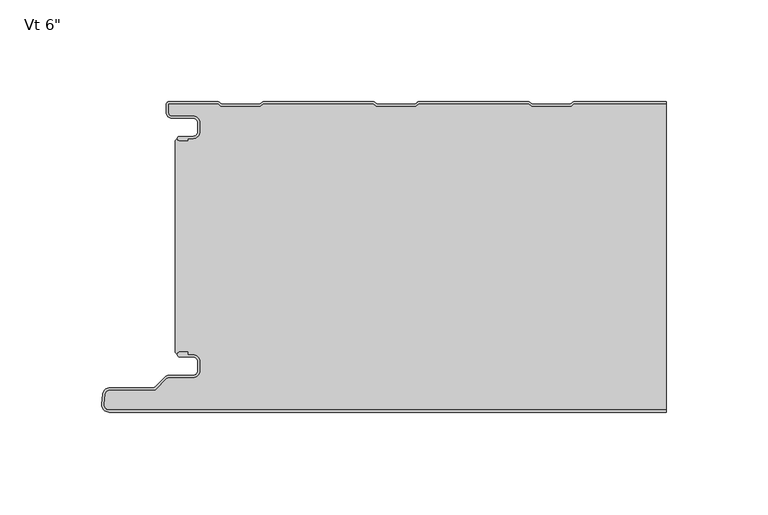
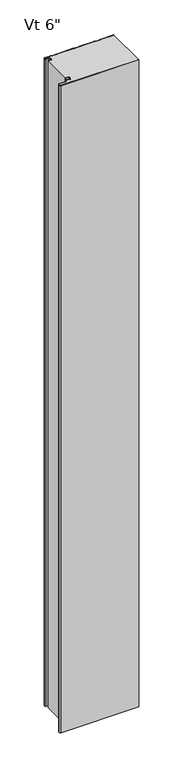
"""IFC4 building model written with IfcOpenShell, lengths in millimetres: plate geometry."""

from ifc_helpers import new_model, si_unit, point, frame, frame_2d, origin, origin_with_axes, place, context, project, spatial, polyline, circle_curve, trimmed, segment, composite_curve, outline, extrude, source, transform, mapped, element, save
from ifc_brep_helpers import plane_surface, cylinder_surface, revolved_surface, advanced_brep


def plate_dca6bb5d(model_context):
    return source(origin(), model_context, "Body", "SolidModel", [
        advanced_brep(
        [(-118.368691, -17.0015034, 2400.0), (-119.3686883, -18.0015065, 2400.0), (-118.368691, -19.0014978, 2400.0), (-114.3684874, -19.0014979, 2400.0), (-114.3684874, -18.0015034, 2400.0), (-111.6762776, -18.0015034, 2400.0), (-108.3762819, -14.7015077, 2400.0), (-108.3762819, -10.3015164, 2400.0), (-111.6762774, -7.001521, 2400.0), (-122.0962563, -7.001521, 2400.0), (-123.8662505, -5.2315268, 2400.0), (-123.8662505, -0.9999791, 2400.0), (-99.3659738, -0.9999791, 2400.0), (-97.9803312, -2.2002182, 2400.0), (-78.6051649, -2.2002182, 2400.0), (-77.219532, -0.9999874, 2400.0), (-23.1661166, -0.9999874, 2400.0), (-21.7804836, -2.2002182, 2400.0), (-2.4053173, -2.2002182, 2400.0), (-1.0196844, -0.9999874, 2400.0), (53.033731, -0.9999874, 2400.0), (54.419364, -2.2002182, 2400.0), (73.7945303, -2.2002182, 2400.0), (75.1801632, -0.9999874, 2400.0), (120.3999998, -0.9999874, 2400.0), (120.3999998, 1.26e-05, 2400.0), (75.3293144, 1.26e-05, 2400.0), (74.4126975, -0.3417759, 2400.0), (73.4216499, -1.2002182, 2400.0), (54.7922444, -1.2002182, 2400.0), (53.8011968, -0.3417759, 2400.0), (52.8845799, 1.26e-05, 2400.0), (-0.8705332, 1.26e-05, 2400.0), (-1.7871501, -0.3417759, 2400.0), (-2.7781977, -1.2002182, 2400.0), (-21.4076032, -1.2002182, 2400.0), (-22.3986508, -0.3417759, 2400.0), (-23.3152677, 1.26e-05, 2400.0), (-77.0703808, 1.26e-05, 2400.0), (-77.9869977, -0.3417759, 2400.0), (-78.9780453, -1.2002182, 2400.0), (-97.6074508, -1.2002182, 2400.0), (-98.5984984, -0.3417759, 2400.0), (-99.5152067, 1.26e-05, 2400.0), (-123.4662543, 2.09e-05, 2400.0), (-124.8662505, -1.3999752, 2400.0), (-124.8662505, -5.2315268, 2400.0), (-122.0962563, -8.001521, 2400.0), (-111.6762774, -8.001521, 2400.0), (-109.3762819, -10.3015164, 2400.0), (-109.3762819, -14.7015077, 2400.0), (-111.6762776, -17.0015034, 2400.0), (-118.368691, -17.0015034, 0.0), (-111.6762776, -17.0015034, 0.0), (-109.3762819, -14.7015077, 0.0), (-109.3762819, -10.3015164, 0.0), (-111.6762774, -8.001521, 0.0), (-122.0962563, -8.001521, 0.0), (-124.8662505, -5.2315268, 0.0), (-124.8662505, -1.3999752, 0.0), (-123.4662543, 2.09e-05, 0.0), (-99.5151153, 2.09e-05, 0.0), (-98.5984984, -0.3417759, 0.0), (-97.6074508, -1.2002182, 0.0), (-78.9780453, -1.2002182, 0.0), (-77.9869977, -0.3417759, 0.0), (-77.0703808, 1.26e-05, 0.0), (-23.3152677, 1.26e-05, 0.0), (-22.3986508, -0.3417759, 0.0), (-21.4076032, -1.2002182, 0.0), (-2.7781977, -1.2002182, 0.0), (-1.7871501, -0.3417759, 0.0), (-0.8705332, 1.26e-05, 0.0), (52.8845799, 1.26e-05, 0.0), (53.8011968, -0.3417759, 0.0), (54.7922444, -1.2002182, 0.0), (73.4216499, -1.2002182, 0.0), (74.4126975, -0.3417759, 0.0), (75.3293144, 1.26e-05, 0.0), (120.3999998, 1.26e-05, 0.0), (120.3999998, -0.9999874, 0.0), (75.1801632, -0.9999874, 0.0), (73.7945303, -2.2002182, 0.0), (54.419364, -2.2002182, 0.0), (53.033731, -0.9999874, 0.0), (-1.0196844, -0.9999874, 0.0), (-2.4053173, -2.2002182, 0.0), (-21.7804836, -2.2002182, 0.0), (-23.1661166, -0.9999874, 0.0), (-77.219532, -0.9999874, 0.0), (-78.6051649, -2.2002182, 0.0), (-97.9803312, -2.2002182, 0.0), (-99.3659738, -0.9999791, 0.0), (-123.8662505, -0.9999791, 0.0), (-123.8662505, -5.2315268, 0.0), (-122.0962563, -7.001521, 0.0), (-111.6762774, -7.001521, 0.0), (-108.3762819, -10.3015164, 0.0), (-108.3762819, -14.7015077, 0.0), (-111.6762776, -18.0015034, 0.0), (-114.3684874, -18.0015034, 0.0), (-114.3684874, -19.0014979, 0.0), (-118.368691, -19.0014979, 0.0), (-119.3686882, -18.0015065, 0.0)],
        [
            (0, 1, circle_curve(frame((-118.368691, -18.0015006, 2400.0), z_axis=(0.0, 0.0, 1.0), x_axis=(1.0, 0.0, 0.0)), 0.9999973)),
            (1, 2, circle_curve(frame((-118.368691, -18.0015006, 2400.0), z_axis=(0.0, 0.0, 1.0), x_axis=(1.0, 0.0, 0.0)), 0.9999972)),
            (2, 3),
            (3, 4),
            (4, 5),
            (5, 6, circle_curve(frame((-111.6762776, -14.7015077, 2400.0), z_axis=(0.0, 0.0, 1.0), x_axis=(1.0, 0.0, 0.0)), 3.2999957)),
            (6, 7),
            (7, 8, circle_curve(frame((-111.6762774, -10.3015164, 2400.0), z_axis=(0.0, 0.0, 1.0), x_axis=(1.0, 0.0, 0.0)), 3.2999955)),
            (8, 9),
            (9, 10, circle_curve(frame((-122.0962563, -5.2315268, 2400.0), z_axis=(0.0, 0.0, -1.0), x_axis=(1.0, 0.0, 0.0)), 1.7699942)),
            (10, 11),
            (11, 12),
            (12, 13),
            (13, 14),
            (14, 15),
            (15, 16),
            (16, 17),
            (17, 18),
            (18, 19),
            (19, 20),
            (20, 21),
            (21, 22),
            (22, 23),
            (23, 24),
            (24, 25),
            (25, 26),
            (26, 27, circle_curve(frame((75.3293144, -1.3999846, 2400.0), z_axis=(0.0, 0.0, 1.0), x_axis=(1.0, 0.0, 0.0)), 1.3999972)),
            (27, 28),
            (28, 29),
            (29, 30),
            (30, 31, circle_curve(frame((52.8845799, -1.3999846, 2400.0), z_axis=(0.0, 0.0, 1.0), x_axis=(1.0, 0.0, 0.0)), 1.3999972)),
            (31, 32),
            (32, 33, circle_curve(frame((-0.8705332, -1.3999846, 2400.0), z_axis=(0.0, 0.0, 1.0), x_axis=(1.0, 0.0, 0.0)), 1.3999972)),
            (33, 34),
            (34, 35),
            (35, 36),
            (36, 37, circle_curve(frame((-23.3152677, -1.3999846, 2400.0), z_axis=(0.0, 0.0, 1.0), x_axis=(1.0, 0.0, 0.0)), 1.3999972)),
            (37, 38),
            (38, 39, circle_curve(frame((-77.0703808, -1.3999846, 2400.0), z_axis=(0.0, 0.0, 1.0), x_axis=(1.0, 0.0, 0.0)), 1.3999972)),
            (39, 40),
            (40, 41),
            (41, 42),
            (42, 43, circle_curve(frame((-99.5151153, -1.3999846, 2400.0), z_axis=(0.0, 0.0, 1.0), x_axis=(1.0, 0.0, 0.0)), 1.3999972)),
            (43, 44),
            (44, 45, circle_curve(frame((-123.4662543, -1.3999752, 2400.0), z_axis=(0.0, 0.0, 1.0), x_axis=(1.0, 0.0, 0.0)), 1.3999962)),
            (45, 46),
            (46, 47, circle_curve(frame((-122.0962563, -5.2315268, 2400.0), z_axis=(0.0, 0.0, 1.0), x_axis=(1.0, 0.0, 0.0)), 2.7699942)),
            (47, 48),
            (48, 49, circle_curve(frame((-111.6762774, -10.3015164, 2400.0), z_axis=(0.0, 0.0, -1.0), x_axis=(1.0, 0.0, 0.0)), 2.2999955)),
            (49, 50),
            (50, 51, circle_curve(frame((-111.6762776, -14.7015077, 2400.0), z_axis=(0.0, 0.0, -1.0), x_axis=(1.0, 0.0, 0.0)), 2.2999957)),
            (51, 0),
            (52, 53),
            (53, 54, circle_curve(frame((-111.6762776, -14.7015077, 0.0), z_axis=(0.0, 0.0, 1.0), x_axis=(1.0, 0.0, 0.0)), 2.2999957)),
            (54, 55),
            (55, 56, circle_curve(frame((-111.6762774, -10.3015164, 0.0), z_axis=(0.0, 0.0, 1.0), x_axis=(1.0, 0.0, 0.0)), 2.2999955)),
            (56, 57),
            (57, 58, circle_curve(frame((-122.0962563, -5.2315268, 0.0), z_axis=(0.0, 0.0, -1.0), x_axis=(1.0, 0.0, 0.0)), 2.7699942)),
            (58, 59),
            (59, 60, circle_curve(frame((-123.4662543, -1.3999752, 0.0), z_axis=(0.0, 0.0, -1.0), x_axis=(1.0, 0.0, 0.0)), 1.3999962)),
            (60, 61),
            (61, 62, circle_curve(frame((-99.5151153, -1.3999846, 0.0), z_axis=(0.0, 0.0, -1.0), x_axis=(1.0, 0.0, 0.0)), 1.3999972)),
            (62, 63),
            (63, 64),
            (64, 65),
            (65, 66, circle_curve(frame((-77.0703808, -1.3999846, 0.0), z_axis=(0.0, 0.0, -1.0), x_axis=(1.0, 0.0, 0.0)), 1.3999972)),
            (66, 67),
            (67, 68, circle_curve(frame((-23.3152677, -1.3999846, 0.0), z_axis=(0.0, 0.0, -1.0), x_axis=(1.0, 0.0, 0.0)), 1.3999972)),
            (68, 69),
            (69, 70),
            (70, 71),
            (71, 72, circle_curve(frame((-0.8705332, -1.3999846, 0.0), z_axis=(0.0, 0.0, -1.0), x_axis=(1.0, 0.0, 0.0)), 1.3999972)),
            (72, 73),
            (73, 74, circle_curve(frame((52.8845799, -1.3999846, 0.0), z_axis=(0.0, 0.0, -1.0), x_axis=(1.0, 0.0, 0.0)), 1.3999972)),
            (74, 75),
            (75, 76),
            (76, 77),
            (77, 78, circle_curve(frame((75.3293144, -1.3999846, 0.0), z_axis=(0.0, 0.0, -1.0), x_axis=(1.0, 0.0, 0.0)), 1.3999972)),
            (78, 79),
            (79, 80),
            (80, 81),
            (81, 82),
            (82, 83),
            (83, 84),
            (84, 85),
            (85, 86),
            (86, 87),
            (87, 88),
            (88, 89),
            (89, 90),
            (90, 91),
            (91, 92),
            (92, 93),
            (93, 94),
            (94, 95, circle_curve(frame((-122.0962563, -5.2315268, 0.0), z_axis=(0.0, 0.0, 1.0), x_axis=(1.0, 0.0, 0.0)), 1.7699942)),
            (95, 96),
            (96, 97, circle_curve(frame((-111.6762774, -10.3015164, 0.0), z_axis=(0.0, 0.0, -1.0), x_axis=(1.0, 0.0, 0.0)), 3.2999955)),
            (97, 98),
            (98, 99, circle_curve(frame((-111.6762776, -14.7015077, 0.0), z_axis=(0.0, 0.0, -1.0), x_axis=(1.0, 0.0, 0.0)), 3.2999957)),
            (99, 100),
            (100, 101),
            (101, 102),
            (102, 103, circle_curve(frame((-118.368691, -18.0015006, 0.0), z_axis=(0.0, 0.0, -1.0), x_axis=(1.0, 0.0, 0.0)), 0.9999972)),
            (103, 52, circle_curve(frame((-118.368691, -18.0015006, 0.0), z_axis=(0.0, 0.0, -1.0), x_axis=(1.0, 0.0, 0.0)), 0.9999973)),
            (24, 80),
            (79, 25),
            (51, 53),
            (52, 0),
            (50, 54),
            (49, 55),
            (48, 56),
            (47, 57),
            (46, 58),
            (45, 59),
            (44, 60),
            (43, 61),
            (78, 26),
            (42, 62),
            (41, 63),
            (40, 64),
            (38, 66),
            (65, 39),
            (36, 68),
            (67, 37),
            (77, 27),
            (76, 28),
            (31, 73),
            (72, 32),
            (71, 33),
            (34, 70),
            (69, 35),
            (30, 74),
            (29, 75),
            (2, 102),
            (101, 3),
            (1, 103),
            (23, 81),
            (22, 82),
            (21, 83),
            (20, 84),
            (19, 85),
            (18, 86),
            (17, 87),
            (16, 88),
            (15, 89),
            (14, 90),
            (13, 91),
            (12, 92),
            (11, 93),
            (10, 94),
            (9, 95),
            (8, 96),
            (7, 97),
            (6, 98),
            (5, 99),
            (4, 100),
        ],
        [
            plane_surface(frame((184.4000002, 1.26e-05, 2400.0), z_axis=(0.0, 0.0, 1.0), x_axis=(0.0, 1.0, 0.0))),
            plane_surface(frame((184.4000002, 1.26e-05, 0.0), z_axis=(0.0, 0.0, -1.0), x_axis=(0.0, 1.0, 0.0))),
            plane_surface(frame((120.3999998, -162.3999874, 2400.0), z_axis=(1.0, 0.0, 0.0), x_axis=(0.0, 0.0, -1.0))),
            plane_surface(frame((-118.368691, -17.0015034, 2400.0), z_axis=(0.0, 1.0, 0.0), x_axis=(0.0, 0.0, -1.0))),
            revolved_surface(polyline([(-109.37628190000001, -14.7015077, 0.0), (-109.37628190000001, -14.7015077, 2400.0)]), (-111.6762776, -14.7015077, 2400.0), (0.0, 0.0, -1.0)),
            plane_surface(frame((-109.3762819, -14.7015077, 2400.0), z_axis=(-1.0, 0.0, 0.0), x_axis=(0.0, 0.0, -1.0))),
            revolved_surface(polyline([(-109.37628190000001, -10.3015164, 0.0), (-109.37628190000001, -10.3015164, 2400.0)]), (-111.6762774, -10.3015164, 2400.0), (0.0, 0.0, -1.0)),
            plane_surface(frame((-111.6762774, -8.001521, 2400.0), z_axis=(0.0, -1.0, 0.0), x_axis=(0.0, 0.0, -1.0))),
            cylinder_surface(frame((-122.0962563, -5.2315268, 2400.0), z_axis=(0.0, 0.0, 1.0), x_axis=(1.0, 0.0, 0.0)), 2.7699942),
            plane_surface(frame((-124.8662505, -5.2315268, 2400.0), z_axis=(-1.0, 0.0, 0.0), x_axis=(0.0, 0.0, -1.0))),
            cylinder_surface(frame((-123.4662543, -1.3999752, 2400.0), z_axis=(0.0, 0.0, 1.0), x_axis=(1.0, 0.0, 0.0)), 1.3999962),
            plane_surface(frame((-123.4662543, 2.09e-05, 2400.0), z_axis=(0.0, 1.0, 0.0), x_axis=(0.0, 0.0, -1.0))),
            plane_surface(frame((75.3293144, 1.26e-05, 2400.0), z_axis=(0.0, 1.0, 0.0), x_axis=(0.0, 0.0, -1.0))),
            cylinder_surface(frame((-99.5151153, -1.3999846, 2400.0), z_axis=(0.0, 0.0, 1.0), x_axis=(1.0, 0.0, 0.0)), 1.3999972),
            plane_surface(frame((-98.5984984, -0.3417759, 2400.0), z_axis=(0.6547276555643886, 0.755864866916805, 0.0), x_axis=(0.0, 0.0, -1.0))),
            plane_surface(frame((-88.2927481, -1.2002182, 2400.0), z_axis=(0.0, 1.0, 0.0), x_axis=(0.0, 0.0, -1.0))),
            cylinder_surface(frame((-77.0703808, -1.3999846, 2400.0), z_axis=(0.0, 0.0, 1.0), x_axis=(1.0, 0.0, 0.0)), 1.3999972),
            plane_surface(frame((-78.9780453, -1.2002182, 2400.0), z_axis=(-0.6547276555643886, 0.755864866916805, 0.0), x_axis=(0.0, 0.0, -1.0))),
            cylinder_surface(frame((-23.3152677, -1.3999846, 2400.0), z_axis=(0.0, 0.0, 1.0), x_axis=(1.0, 0.0, 0.0)), 1.3999972),
            cylinder_surface(frame((75.3293144, -1.3999846, 2400.0), z_axis=(0.0, 0.0, 1.0), x_axis=(1.0, 0.0, 0.0)), 1.3999972),
            plane_surface(frame((73.4216499, -1.2002182, 2400.0), z_axis=(-0.6547276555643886, 0.755864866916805, 0.0), x_axis=(0.0, 0.0, -1.0))),
            plane_surface(frame((-0.8705332, 1.26e-05, 2400.0), z_axis=(0.0, 1.0, 0.0), x_axis=(0.0, 0.0, -1.0))),
            cylinder_surface(frame((-0.8705332, -1.3999846, 2400.0), z_axis=(0.0, 0.0, 1.0), x_axis=(1.0, 0.0, 0.0)), 1.3999972),
            plane_surface(frame((-12.0929005, -1.2002182, 2400.0), z_axis=(0.0, 1.0, 0.0), x_axis=(0.0, 0.0, -1.0))),
            plane_surface(frame((-22.3986508, -0.3417759, 2400.0), z_axis=(0.6547276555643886, 0.755864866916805, 0.0), x_axis=(0.0, 0.0, -1.0))),
            plane_surface(frame((-2.7781977, -1.2002182, 2400.0), z_axis=(-0.6547276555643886, 0.755864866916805, 0.0), x_axis=(0.0, 0.0, -1.0))),
            plane_surface(frame((-77.0703808, 1.26e-05, 2400.0), z_axis=(0.0, 1.0, 0.0), x_axis=(0.0, 0.0, -1.0))),
            cylinder_surface(frame((52.8845799, -1.3999846, 2400.0), z_axis=(0.0, 0.0, 1.0), x_axis=(1.0, 0.0, 0.0)), 1.3999972),
            plane_surface(frame((53.8011968, -0.3417759, 2400.0), z_axis=(0.6547276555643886, 0.755864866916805, 0.0), x_axis=(0.0, 0.0, -1.0))),
            plane_surface(frame((64.1069471, -1.2002182, 2400.0), z_axis=(0.0, 1.0, 0.0), x_axis=(0.0, 0.0, -1.0))),
            plane_surface(frame((-114.3684874, -19.0014979, 2400.0), z_axis=(0.0, -1.0, 0.0), x_axis=(0.0, 0.0, -1.0))),
            cylinder_surface(frame((-118.368691, -18.0015006, 2400.0), z_axis=(0.0, 0.0, 1.0), x_axis=(1.0, 0.0, 0.0)), 0.9999972),
            cylinder_surface(frame((-118.368691, -18.0015006, 2400.0), z_axis=(0.0, 0.0, 1.0), x_axis=(1.0, 0.0, 0.0)), 0.9999973),
            plane_surface(frame((129.2335786, -0.9999874, 2400.0), z_axis=(0.0, -1.0, 0.0), x_axis=(0.0, 0.0, -1.0))),
            plane_surface(frame((75.1801632, -0.9999874, 2400.0), z_axis=(0.6547276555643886, -0.755864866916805, 0.0), x_axis=(0.0, 0.0, -1.0))),
            plane_surface(frame((73.7945303, -2.2002182, 2400.0), z_axis=(0.0, -1.0, 0.0), x_axis=(0.0, 0.0, -1.0))),
            plane_surface(frame((54.419364, -2.2002182, 2400.0), z_axis=(-0.6547276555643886, -0.755864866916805, 0.0), x_axis=(0.0, 0.0, -1.0))),
            plane_surface(frame((53.033731, -0.9999874, 2400.0), z_axis=(0.0, -1.0, 0.0), x_axis=(0.0, 0.0, -1.0))),
            plane_surface(frame((-1.0196844, -0.9999874, 2400.0), z_axis=(0.6547276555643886, -0.755864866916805, 0.0), x_axis=(0.0, 0.0, -1.0))),
            plane_surface(frame((-2.4053173, -2.2002182, 2400.0), z_axis=(0.0, -1.0, 0.0), x_axis=(0.0, 0.0, -1.0))),
            plane_surface(frame((-21.7804836, -2.2002182, 2400.0), z_axis=(-0.6547276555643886, -0.755864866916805, 0.0), x_axis=(0.0, 0.0, -1.0))),
            plane_surface(frame((-23.1661166, -0.9999874, 2400.0), z_axis=(0.0, -1.0, 0.0), x_axis=(0.0, 0.0, -1.0))),
            plane_surface(frame((-77.219532, -0.9999874, 2400.0), z_axis=(0.6547276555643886, -0.755864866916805, 0.0), x_axis=(0.0, 0.0, -1.0))),
            plane_surface(frame((-78.6051649, -2.2002182, 2400.0), z_axis=(0.0, -1.0, 0.0), x_axis=(0.0, 0.0, -1.0))),
            plane_surface(frame((-97.9803312, -2.2002182, 2400.0), z_axis=(-0.6547276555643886, -0.755864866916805, 0.0), x_axis=(0.0, 0.0, -1.0))),
            plane_surface(frame((-99.3659738, -0.9999791, 2400.0), z_axis=(0.0, -1.0, 0.0), x_axis=(0.0, 0.0, -1.0))),
            plane_surface(frame((-123.8662505, -0.9999791, 2400.0), z_axis=(1.0, 0.0, 0.0), x_axis=(0.0, 0.0, -1.0))),
            revolved_surface(polyline([(-120.3262621, -5.2315268, 0.0), (-120.3262621, -5.2315268, 2400.0)]), (-122.0962563, -5.2315268, 2400.0), (0.0, 0.0, -1.0)),
            plane_surface(frame((-122.0962563, -7.001521, 2400.0), z_axis=(0.0, 1.0, 0.0), x_axis=(0.0, 0.0, -1.0))),
            cylinder_surface(frame((-111.6762774, -10.3015164, 2400.0), z_axis=(0.0, 0.0, 1.0), x_axis=(1.0, 0.0, 0.0)), 3.2999955),
            plane_surface(frame((-108.3762819, -10.3015164, 2400.0), z_axis=(1.0, 0.0, 0.0), x_axis=(0.0, 0.0, -1.0))),
            cylinder_surface(frame((-111.6762776, -14.7015077, 2400.0), z_axis=(0.0, 0.0, 1.0), x_axis=(1.0, 0.0, 0.0)), 3.2999957),
            plane_surface(frame((-111.6762776, -18.0015034, 2400.0), z_axis=(0.0, -1.0, 0.0), x_axis=(0.0, 0.0, -1.0))),
            plane_surface(frame((-114.3684874, -18.0015034, 2400.0), z_axis=(1.0, 0.0, 0.0), x_axis=(0.0, 0.0, -1.0))),
        ],
        [
            (0, [[1, 2, 3, 4, 5, 6, 7, 8, 9, 10, 11, 12, 13, 14, 15, 16, 17, 18, 19, 20, 21, 22, 23, 24, 25, 26, 27, 28, 29, 30, 31, 32, 33, 34, 35, 36, 37, 38, 39, 40, 41, 42, 43, 44, 45, 46, 47, 48, 49, 50, 51, 52]]),
            (1, [[53, 54, 55, 56, 57, 58, 59, 60, 61, 62, 63, 64, 65, 66, 67, 68, 69, 70, 71, 72, 73, 74, 75, 76, 77, 78, 79, 80, 81, 82, 83, 84, 85, 86, 87, 88, 89, 90, 91, 92, 93, 94, 95, 96, 97, 98, 99, 100, 101, 102, 103, 104]]),
            (2, [[105, -80, 106, -25]]),
            (3, [[107, -53, 108, -52]]),
            (4, [[109, -54, -107, -51]]),
            (5, [[110, -55, -109, -50]]),
            (6, [[111, -56, -110, -49]]),
            (7, [[112, -57, -111, -48]]),
            (8, [[113, -58, -112, -47]]),
            (9, [[114, -59, -113, -46]]),
            (10, [[115, -60, -114, -45]]),
            (11, [[116, -61, -115, -44]]),
            (12, [[-26, -106, -79, 117]]),
            (13, [[118, -62, -116, -43]]),
            (14, [[119, -63, -118, -42]]),
            (15, [[120, -64, -119, -41]]),
            (16, [[121, -66, 122, -39]]),
            (17, [[-122, -65, -120, -40]]),
            (18, [[123, -68, 124, -37]]),
            (19, [[-117, -78, 125, -27]]),
            (20, [[-125, -77, 126, -28]]),
            (21, [[127, -73, 128, -32]]),
            (22, [[-128, -72, 129, -33]]),
            (23, [[130, -70, 131, -35]]),
            (24, [[-131, -69, -123, -36]]),
            (25, [[-129, -71, -130, -34]]),
            (26, [[-124, -67, -121, -38]]),
            (27, [[132, -74, -127, -31]]),
            (28, [[133, -75, -132, -30]]),
            (29, [[-126, -76, -133, -29]]),
            (30, [[134, -102, 135, -3]]),
            (31, [[136, -103, -134, -2]]),
            (32, [[-108, -104, -136, -1]]),
            (33, [[-81, -105, -24, 137]]),
            (34, [[138, -82, -137, -23]]),
            (35, [[139, -83, -138, -22]]),
            (36, [[140, -84, -139, -21]]),
            (37, [[141, -85, -140, -20]]),
            (38, [[142, -86, -141, -19]]),
            (39, [[143, -87, -142, -18]]),
            (40, [[144, -88, -143, -17]]),
            (41, [[145, -89, -144, -16]]),
            (42, [[146, -90, -145, -15]]),
            (43, [[147, -91, -146, -14]]),
            (44, [[148, -92, -147, -13]]),
            (45, [[149, -93, -148, -12]]),
            (46, [[150, -94, -149, -11]]),
            (47, [[151, -95, -150, -10]]),
            (48, [[152, -96, -151, -9]]),
            (49, [[153, -97, -152, -8]]),
            (50, [[154, -98, -153, -7]]),
            (51, [[155, -99, -154, -6]]),
            (52, [[156, -100, -155, -5]]),
            (53, [[-135, -101, -156, -4]]),
        ],
    ),
        extrude(outline(composite_curve([segment(polyline([(-156.4087505, -148.5183478), (-155.9690674, -143.4944311)]), True, "CONTINUOUS"), segment(trimmed(circle_curve(frame_2d((-152.3198391, -144.1052322)), 3.6999926), [point((-155.9690674, -143.4944311))], [point((-152.3198391, -140.4052396))], False, "CARTESIAN"), True, "CONTINUOUS"), segment(polyline([(-152.3198391, -140.4052396), (-131.1773995, -140.4052396)]), True, "CONTINUOUS"), segment(trimmed(circle_curve(frame_2d((-131.1773995, -139.1052422)), 1.2999974), [point((-131.1773995, -140.4052396))], [point((-130.2581626, -140.0244792))], True, "CARTESIAN"), True, "CONTINUOUS"), segment(polyline([(-130.2581626, -140.0244792), (-125.4297451, -135.1960618)]), True, "CONTINUOUS"), segment(trimmed(circle_curve(frame_2d((-123.5205606, -137.1052462)), 2.6999946), [point((-125.4297451, -135.1960618))], [point((-123.5205606, -134.4052516))], False, "CARTESIAN"), True, "CONTINUOUS"), segment(polyline([(-123.5205606, -134.4052516), (-111.7096715, -134.4052516)]), True, "CONTINUOUS"), segment(trimmed(circle_curve(frame_2d((-111.7096715, -132.0552563)), 2.3499953), [point((-111.7096715, -134.4052516))], [point((-109.3596762, -132.0552563))], True, "CARTESIAN"), True, "CONTINUOUS"), segment(polyline([(-109.3596762, -132.0552563), (-109.3596762, -127.6552651)]), True, "CONTINUOUS"), segment(trimmed(circle_curve(frame_2d((-111.7096715, -127.6552651)), 2.3499953), [point((-109.3596762, -127.6552651))], [point((-111.7096715, -125.3052698))], True, "CARTESIAN"), True, "CONTINUOUS"), segment(polyline([(-111.7096715, -125.3052698), (-118.2289777, -125.3052698)]), True, "CONTINUOUS"), segment(trimmed(circle_curve(frame_2d((-118.1686906, -124.1067876)), 1.1999976), [point((-118.2289777, -125.3052698))], [point((-119.3683, -124.0762657))], False, "CARTESIAN"), True, "CONTINUOUS"), segment(trimmed(circle_curve(frame_2d((-118.1686906, -124.1067876)), 1.1999976), [point((-119.3683, -124.0762657))], [point((-118.167176, -122.906791))], False, "CARTESIAN"), True, "CONTINUOUS"), segment(polyline([(-118.167176, -122.906791), (-114.4087826, -122.906791), (-114.4087826, -124.3052698), (-111.7096715, -124.3052698)]), True, "CONTINUOUS"), segment(trimmed(circle_curve(frame_2d((-111.7096715, -127.6552651)), 3.3499953), [point((-111.7096715, -124.3052698))], [point((-108.3596762, -127.6552651))], False, "CARTESIAN"), True, "CONTINUOUS"), segment(polyline([(-108.3596762, -127.6552651), (-108.3596762, -132.0552563)]), True, "CONTINUOUS"), segment(trimmed(circle_curve(frame_2d((-111.7096715, -132.0552563)), 3.3499953), [point((-108.3596762, -132.0552563))], [point((-111.7096715, -135.4052516))], False, "CARTESIAN"), True, "CONTINUOUS"), segment(polyline([(-111.7096715, -135.4052516), (-123.5205606, -135.4052516)]), True, "CONTINUOUS"), segment(trimmed(circle_curve(frame_2d((-123.5205606, -137.1052462)), 1.6999946), [point((-123.5205606, -135.4052516))], [point((-124.7226383, -135.9031685))], True, "CARTESIAN"), True, "CONTINUOUS"), segment(polyline([(-124.7226383, -135.9031685), (-130.2247094, -141.4052396), (-152.3198391, -141.4052396)]), True, "CONTINUOUS"), segment(trimmed(circle_curve(frame_2d((-152.3198391, -144.1052322)), 2.6999926), [point((-152.3198391, -141.4052396))], [point((-154.9765707, -143.6238416))], True, "CARTESIAN"), True, "CONTINUOUS"), segment(polyline([(-154.9765707, -143.6238416), (-155.4125697, -148.6056625)]), True, "CONTINUOUS"), segment(trimmed(circle_curve(frame_2d((-152.8521175, -148.8297482)), 2.5702393), [point((-155.4125697, -148.6056625))], [point((-152.9094458, -151.399348))], True, "CARTESIAN"), True, "CONTINUOUS"), segment(polyline([(-152.9094458, -151.399348), (120.3999998, -151.399348), (120.3999998, -152.3996828), (-152.8521038, -152.3998575)]), True, "CONTINUOUS"), segment(trimmed(circle_curve(frame_2d((-152.8521061, -148.8296182)), 3.5702393), [point((-152.8521038, -152.3998575))], [point((-156.4087505, -148.5183478))], False, "CARTESIAN"), True, "CONTINUOUS")], self_intersect=False)), origin_with_axes(), (0.0, 0.0, 1.0), 2400.0),
        advanced_brep(
        [(-119.3683, -124.0708624, 2400.0), (-118.167176, -122.9013877, 2400.0), (-114.4087826, -122.9013877, 2400.0), (-114.4087826, -124.2998666, 2400.0), (-111.7096715, -124.2998666, 2400.0), (-108.3596762, -127.6498619, 2400.0), (-108.3596762, -132.0498531, 2400.0), (-111.7096715, -135.3998484, 2400.0), (-123.5205606, -135.3998484, 2400.0), (-124.7226383, -135.8977653, 2400.0), (-130.2247094, -141.3998364, 2400.0), (-152.3198391, -141.3998364, 2400.0), (-154.9765707, -143.6184384, 2400.0), (-155.4125697, -148.6002592, 2400.0), (-152.8521175, -151.3945842, 2400.0), (120.3999998, -151.3999874, 2400.0), (120.3999998, -0.9999874, 2400.0), (75.1801633, -0.9999874, 2400.0), (73.7945303, -2.2002182, 2400.0), (54.419364, -2.2002182, 2400.0), (53.0337311, -0.9999874, 2400.0), (-1.0196843, -0.9999874, 2400.0), (-2.4053173, -2.2002182, 2400.0), (-21.7804836, -2.2002182, 2400.0), (-23.1661165, -0.9999874, 2400.0), (-77.2195319, -0.9999874, 2400.0), (-78.6051649, -2.2002182, 2400.0), (-97.9803312, -2.2002182, 2400.0), (-99.3659738, -0.9999791, 2400.0), (-123.8662504, -0.9999791, 2400.0), (-123.8662504, -5.2315264, 2400.0), (-122.0962562, -7.0015206, 2400.0), (-111.6762777, -7.0015206, 2400.0), (-108.3762818, -10.3015164, 2400.0), (-108.3762818, -14.7015077, 2400.0), (-111.6762775, -18.0015034, 2400.0), (-114.3684873, -18.0015034, 2400.0), (-114.3684873, -19.0014979, 2400.0), (-118.368691, -19.0014979, 2400.0), (-119.3686882, -18.0015066, 2400.0), (-120.3999998, -19.0328183, 2400.0), (-120.3999998, -123.0391626, 2400.0), (-119.3683, -124.0708624, 0.0), (-120.3999998, -123.0391626, 0.0), (-120.3999998, -19.0328183, 0.0), (-119.3686882, -18.0015066, 0.0), (-118.368691, -19.0014979, 0.0), (-114.3684873, -19.0014979, 0.0), (-114.3684873, -18.0015034, 0.0), (-111.6762775, -18.0015034, 0.0), (-108.3762818, -14.7015077, 0.0), (-108.3762818, -10.3015164, 0.0), (-111.6762777, -7.0015206, 0.0), (-122.0962562, -7.0015206, 0.0), (-123.8662504, -5.2315264, 0.0), (-123.8662504, -0.9999791, 0.0), (-99.3659738, -0.9999791, 0.0), (-97.9803312, -2.2002182, 0.0), (-78.6051649, -2.2002182, 0.0), (-77.2195319, -0.9999874, 0.0), (-23.1661165, -0.9999874, 0.0), (-21.7804836, -2.2002182, 0.0), (-2.4053173, -2.2002182, 0.0), (-1.0196843, -0.9999874, 0.0), (53.0337311, -0.9999874, 0.0), (54.419364, -2.2002182, 0.0), (73.7945303, -2.2002182, 0.0), (75.1801633, -0.9999874, 0.0), (120.3999998, -0.9999874, 0.0), (120.3999998, -151.3999874, 0.0), (-152.8521175, -151.3999874, 0.0), (-155.4125697, -148.6002592, 0.0), (-154.9765707, -143.6184384, 0.0), (-152.3198391, -141.3998364, 0.0), (-130.2247094, -141.3998364, 0.0), (-124.7226383, -135.8977653, 0.0), (-123.5205606, -135.3998484, 0.0), (-111.7096715, -135.3998484, 0.0), (-108.3596762, -132.0498531, 0.0), (-108.3596762, -127.6498619, 0.0), (-111.7096715, -124.2998666, 0.0), (-114.4087826, -124.2998666, 0.0), (-114.4087826, -122.9013877, 0.0), (-118.167176, -122.9013877, 0.0)],
        [
            (0, 1, circle_curve(frame((-118.1686906, -124.1013843, 2400.0), z_axis=(0.0, 0.0, -1.0), x_axis=(-1.0, 0.0, 0.0)), 1.1999976)),
            (1, 2),
            (2, 3),
            (3, 4),
            (4, 5, circle_curve(frame((-111.7096715, -127.6498619, 2400.0), z_axis=(0.0, 0.0, -1.0), x_axis=(-1.0, 0.0, 0.0)), 3.3499953)),
            (5, 6),
            (6, 7, circle_curve(frame((-111.7096715, -132.0498531, 2400.0), z_axis=(0.0, 0.0, -1.0), x_axis=(-1.0, 0.0, 0.0)), 3.3499953)),
            (7, 8),
            (8, 9, circle_curve(frame((-123.5205606, -137.099843, 2400.0), z_axis=(0.0, 0.0, 1.0), x_axis=(-1.0, 0.0, 0.0)), 1.6999946)),
            (9, 10),
            (10, 11),
            (11, 12, circle_curve(frame((-152.3198391, -144.099829, 2400.0), z_axis=(0.0, 0.0, 1.0), x_axis=(-1.0, 0.0, 0.0)), 2.6999926)),
            (12, 13),
            (13, 14, circle_curve(frame((-152.8521175, -148.8243449, 2400.0), z_axis=(0.0, 0.0, 1.0), x_axis=(-1.0, 0.0, 0.0)), 2.5702393)),
            (14, 15),
            (15, 16),
            (16, 17),
            (17, 18),
            (18, 19),
            (19, 20),
            (20, 21),
            (21, 22),
            (22, 23),
            (23, 24),
            (24, 25),
            (25, 26),
            (26, 27),
            (27, 28),
            (28, 29),
            (29, 30),
            (30, 31, circle_curve(frame((-122.0962562, -5.2315264, 2400.0), z_axis=(0.0, 0.0, 1.0), x_axis=(1.0, 0.0, 0.0)), 1.7699942)),
            (31, 32),
            (32, 33, circle_curve(frame((-111.6762777, -10.3015164, 2400.0), z_axis=(0.0, 0.0, -1.0), x_axis=(1.0, 0.0, 0.0)), 3.2999959)),
            (33, 34),
            (34, 35, circle_curve(frame((-111.6762775, -14.7015077, 2400.0), z_axis=(0.0, 0.0, -1.0), x_axis=(1.0, 0.0, 0.0)), 3.2999957)),
            (35, 36),
            (36, 37),
            (37, 38),
            (38, 39, circle_curve(frame((-118.368691, -18.0015007, 2400.0), z_axis=(0.0, 0.0, -1.0), x_axis=(1.0, 0.0, 0.0)), 0.9999972)),
            (39, 40),
            (40, 41),
            (41, 0),
            (42, 43),
            (43, 44),
            (44, 45),
            (45, 46, circle_curve(frame((-118.368691, -18.0015007, 0.0), z_axis=(0.0, 0.0, 1.0), x_axis=(1.0, 0.0, 0.0)), 0.9999972)),
            (46, 47),
            (47, 48),
            (48, 49),
            (49, 50, circle_curve(frame((-111.6762775, -14.7015077, 0.0), z_axis=(0.0, 0.0, 1.0), x_axis=(1.0, 0.0, 0.0)), 3.2999957)),
            (50, 51),
            (51, 52, circle_curve(frame((-111.6762777, -10.3015164, 0.0), z_axis=(0.0, 0.0, 1.0), x_axis=(1.0, 0.0, 0.0)), 3.2999959)),
            (52, 53),
            (53, 54, circle_curve(frame((-122.0962562, -5.2315264, 0.0), z_axis=(0.0, 0.0, -1.0), x_axis=(1.0, 0.0, 0.0)), 1.7699942)),
            (54, 55),
            (55, 56),
            (56, 57),
            (57, 58),
            (58, 59),
            (59, 60),
            (60, 61),
            (61, 62),
            (62, 63),
            (63, 64),
            (64, 65),
            (65, 66),
            (66, 67),
            (67, 68),
            (68, 69),
            (69, 70),
            (70, 71, circle_curve(frame((-152.8521175, -148.8243449, 0.0), z_axis=(0.0, 0.0, -1.0), x_axis=(-1.0, 0.0, 0.0)), 2.5702393)),
            (71, 72),
            (72, 73, circle_curve(frame((-152.3198391, -144.099829, 0.0), z_axis=(0.0, 0.0, -1.0), x_axis=(-1.0, 0.0, 0.0)), 2.6999926)),
            (73, 74),
            (74, 75),
            (75, 76, circle_curve(frame((-123.5205606, -137.099843, 0.0), z_axis=(0.0, 0.0, -1.0), x_axis=(-1.0, 0.0, 0.0)), 1.6999946)),
            (76, 77),
            (77, 78, circle_curve(frame((-111.7096715, -132.0498531, 0.0), z_axis=(0.0, 0.0, 1.0), x_axis=(-1.0, 0.0, 0.0)), 3.3499953)),
            (78, 79),
            (79, 80, circle_curve(frame((-111.7096715, -127.6498619, 0.0), z_axis=(0.0, 0.0, 1.0), x_axis=(-1.0, 0.0, 0.0)), 3.3499953)),
            (80, 81),
            (81, 82),
            (82, 83),
            (83, 42, circle_curve(frame((-118.1686906, -124.1013843, 0.0), z_axis=(0.0, 0.0, 1.0), x_axis=(-1.0, 0.0, 0.0)), 1.1999976)),
            (41, 43),
            (42, 0),
            (40, 44),
            (69, 15),
            (14, 70),
            (13, 71),
            (12, 72),
            (11, 73),
            (10, 74),
            (9, 75),
            (8, 76),
            (7, 77),
            (6, 78),
            (5, 79),
            (4, 80),
            (3, 81),
            (2, 82),
            (1, 83),
            (39, 45),
            (38, 46),
            (37, 47),
            (36, 48),
            (35, 49),
            (34, 50),
            (33, 51),
            (32, 52),
            (31, 53),
            (30, 54),
            (29, 55),
            (27, 57),
            (56, 28),
            (68, 16),
            (26, 58),
            (25, 59),
            (24, 60),
            (23, 61),
            (22, 62),
            (21, 63),
            (20, 64),
            (19, 65),
            (18, 66),
            (17, 67),
        ],
        [
            plane_surface(frame((184.4000002, -151.3999874, 2400.0), z_axis=(0.0, 0.0, 1.0), x_axis=(0.0, -1.0, 0.0))),
            plane_surface(frame((184.4000002, -151.3999874, 0.0), z_axis=(0.0, 0.0, -1.0), x_axis=(0.0, -1.0, 0.0))),
            plane_surface(frame((-119.3683, -124.0708624, 2400.0), z_axis=(-0.7071067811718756, -0.7071067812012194, 0.0), x_axis=(0.0, 0.0, -1.0))),
            plane_surface(frame((-120.3999998, -123.0391626, 2400.0), z_axis=(-1.0, 0.0, 0.0), x_axis=(0.0, 0.0, -1.0))),
            plane_surface(frame((440.7156221, -151.3999874, 2400.0), z_axis=(0.0, -1.0, 0.0), x_axis=(0.0, 0.0, -1.0))),
            cylinder_surface(frame((-152.8521175, -148.8243449, 2400.0), z_axis=(0.0, 0.0, 1.0), x_axis=(-1.0, 0.0, 0.0)), 2.5702393),
            plane_surface(frame((-155.4125697, -148.6002592, 2400.0), z_axis=(-0.9961921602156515, 0.08718474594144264, 0.0), x_axis=(0.0, 0.0, -1.0))),
            cylinder_surface(frame((-152.3198391, -144.099829, 2400.0), z_axis=(0.0, 0.0, 1.0), x_axis=(-1.0, 0.0, 0.0)), 2.6999926),
            plane_surface(frame((-152.3198391, -141.3998364, 2400.0), z_axis=(0.0, 1.0, 0.0), x_axis=(0.0, 0.0, -1.0))),
            plane_surface(frame((-130.2247094, -141.3998364, 2400.0), z_axis=(-0.7071067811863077, 0.7071067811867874, 0.0), x_axis=(0.0, 0.0, -1.0))),
            cylinder_surface(frame((-123.5205606, -137.099843, 2400.0), z_axis=(0.0, 0.0, 1.0), x_axis=(-1.0, 0.0, 0.0)), 1.6999946),
            plane_surface(frame((-123.5205606, -135.3998484, 2400.0), z_axis=(0.0, 1.0, 0.0), x_axis=(0.0, 0.0, -1.0))),
            revolved_surface(polyline([(-115.0596668, -132.0498531, 0.0), (-115.0596668, -132.0498531, 2400.0)]), (-111.7096715, -132.0498531, 2400.0), (0.0, 0.0, -1.0)),
            plane_surface(frame((-108.3596762, -132.0498531, 2400.0), z_axis=(-1.0, 0.0, 0.0), x_axis=(0.0, 0.0, -1.0))),
            revolved_surface(polyline([(-115.0596668, -127.6498619, 0.0), (-115.0596668, -127.6498619, 2400.0)]), (-111.7096715, -127.6498619, 2400.0), (0.0, 0.0, -1.0)),
            plane_surface(frame((-111.7096715, -124.2998666, 2400.0), z_axis=(0.0, -1.0, 0.0), x_axis=(0.0, 0.0, -1.0))),
            plane_surface(frame((-114.4087826, -124.2998666, 2400.0), z_axis=(-1.0, 0.0, 0.0), x_axis=(0.0, 0.0, -1.0))),
            plane_surface(frame((-114.4087826, -122.9013877, 2400.0), z_axis=(0.0, -1.0, 0.0), x_axis=(0.0, 0.0, -1.0))),
            revolved_surface(polyline([(-119.36868820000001, -124.1013843, 0.0), (-119.36868820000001, -124.1013843, 2400.0)]), (-118.1686906, -124.1013843, 2400.0), (0.0, 0.0, -1.0)),
            plane_surface(frame((-120.3999998, -19.0328183, 2400.0), z_axis=(-0.7071067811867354, 0.7071067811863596, 0.0), x_axis=(0.0, 0.0, -1.0))),
            revolved_surface(polyline([(-117.3686938, -18.0015007, 0.0), (-117.3686938, -18.0015007, 2400.0)]), (-118.368691, -18.0015007, 2400.0), (0.0, 0.0, -1.0)),
            plane_surface(frame((-118.368691, -19.0014979, 2400.0), z_axis=(0.0, 1.0, 0.0), x_axis=(0.0, 0.0, -1.0))),
            plane_surface(frame((-114.3684873, -19.0014979, 2400.0), z_axis=(-1.0, 0.0, 0.0), x_axis=(0.0, 0.0, -1.0))),
            plane_surface(frame((-114.3684873, -18.0015034, 2400.0), z_axis=(0.0, 1.0, 0.0), x_axis=(0.0, 0.0, -1.0))),
            revolved_surface(polyline([(-108.3762818, -14.7015077, 0.0), (-108.3762818, -14.7015077, 2400.0)]), (-111.6762775, -14.7015077, 2400.0), (0.0, 0.0, -1.0)),
            plane_surface(frame((-108.3762818, -14.7015077, 2400.0), z_axis=(-1.0, 0.0, 0.0), x_axis=(0.0, 0.0, -1.0))),
            revolved_surface(polyline([(-108.3762818, -10.3015164, 0.0), (-108.3762818, -10.3015164, 2400.0)]), (-111.6762777, -10.3015164, 2400.0), (0.0, 0.0, -1.0)),
            plane_surface(frame((-111.6762777, -7.0015206, 2400.0), z_axis=(0.0, -1.0, 0.0), x_axis=(0.0, 0.0, -1.0))),
            cylinder_surface(frame((-122.0962562, -5.2315264, 2400.0), z_axis=(0.0, 0.0, 1.0), x_axis=(1.0, 0.0, 0.0)), 1.7699942),
            plane_surface(frame((-123.8662504, -5.2315264, 2400.0), z_axis=(-1.0, 0.0, 0.0), x_axis=(0.0, 0.0, -1.0))),
            plane_surface(frame((-99.3659738, -0.9999791, 2400.0), z_axis=(0.6547276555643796, 0.7558648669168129, 0.0), x_axis=(0.0, 0.0, -1.0))),
            plane_surface(frame((-123.8662504, -0.9999791, 2400.0), z_axis=(0.0, 1.0, 0.0), x_axis=(0.0, 0.0, -1.0))),
            plane_surface(frame((120.3999998, -162.3999874, 2400.0), z_axis=(1.0, 0.0, 0.0), x_axis=(0.0, 0.0, -1.0))),
            plane_surface(frame((-97.9803312, -2.2002182, 2400.0), z_axis=(0.0, 1.0, 0.0), x_axis=(0.0, 0.0, -1.0))),
            plane_surface(frame((-78.6051649, -2.2002182, 2400.0), z_axis=(-0.6547276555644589, 0.7558648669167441, 0.0), x_axis=(0.0, 0.0, -1.0))),
            plane_surface(frame((-77.2195319, -0.9999874, 2400.0), z_axis=(0.0, 1.0, 0.0), x_axis=(0.0, 0.0, -1.0))),
            plane_surface(frame((-23.1661165, -0.9999874, 2400.0), z_axis=(0.6547276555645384, 0.7558648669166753, 0.0), x_axis=(0.0, 0.0, -1.0))),
            plane_surface(frame((-21.7804836, -2.2002182, 2400.0), z_axis=(0.0, 1.0, 0.0), x_axis=(0.0, 0.0, -1.0))),
            plane_surface(frame((-2.4053173, -2.2002182, 2400.0), z_axis=(-0.6547276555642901, 0.7558648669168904, 0.0), x_axis=(0.0, 0.0, -1.0))),
            plane_surface(frame((-1.0196843, -0.9999874, 2400.0), z_axis=(0.0, 1.0, 0.0), x_axis=(0.0, 0.0, -1.0))),
            plane_surface(frame((53.0337311, -0.9999874, 2400.0), z_axis=(0.6547276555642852, 0.7558648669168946, 0.0), x_axis=(0.0, 0.0, -1.0))),
            plane_surface(frame((54.419364, -2.2002182, 2400.0), z_axis=(0.0, 1.0, 0.0), x_axis=(0.0, 0.0, -1.0))),
            plane_surface(frame((73.7945303, -2.2002182, 2400.0), z_axis=(-0.6547276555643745, 0.7558648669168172, 0.0), x_axis=(0.0, 0.0, -1.0))),
            plane_surface(frame((75.1801633, -0.9999874, 2400.0), z_axis=(0.0, 1.0, 0.0), x_axis=(0.0, 0.0, -1.0))),
        ],
        [
            (0, [[1, 2, 3, 4, 5, 6, 7, 8, 9, 10, 11, 12, 13, 14, 15, 16, 17, 18, 19, 20, 21, 22, 23, 24, 25, 26, 27, 28, 29, 30, 31, 32, 33, 34, 35, 36, 37, 38, 39, 40, 41, 42]]),
            (1, [[43, 44, 45, 46, 47, 48, 49, 50, 51, 52, 53, 54, 55, 56, 57, 58, 59, 60, 61, 62, 63, 64, 65, 66, 67, 68, 69, 70, 71, 72, 73, 74, 75, 76, 77, 78, 79, 80, 81, 82, 83, 84]]),
            (2, [[85, -43, 86, -42]]),
            (3, [[-41, 87, -44, -85]]),
            (4, [[-70, 88, -15, 89]]),
            (5, [[90, -71, -89, -14]]),
            (6, [[91, -72, -90, -13]]),
            (7, [[92, -73, -91, -12]]),
            (8, [[93, -74, -92, -11]]),
            (9, [[94, -75, -93, -10]]),
            (10, [[95, -76, -94, -9]]),
            (11, [[96, -77, -95, -8]]),
            (12, [[97, -78, -96, -7]]),
            (13, [[98, -79, -97, -6]]),
            (14, [[99, -80, -98, -5]]),
            (15, [[100, -81, -99, -4]]),
            (16, [[101, -82, -100, -3]]),
            (17, [[102, -83, -101, -2]]),
            (18, [[-86, -84, -102, -1]]),
            (19, [[103, -45, -87, -40]]),
            (20, [[104, -46, -103, -39]]),
            (21, [[105, -47, -104, -38]]),
            (22, [[106, -48, -105, -37]]),
            (23, [[107, -49, -106, -36]]),
            (24, [[108, -50, -107, -35]]),
            (25, [[109, -51, -108, -34]]),
            (26, [[110, -52, -109, -33]]),
            (27, [[111, -53, -110, -32]]),
            (28, [[112, -54, -111, -31]]),
            (29, [[113, -55, -112, -30]]),
            (30, [[114, -57, 115, -28]]),
            (31, [[-115, -56, -113, -29]]),
            (32, [[-88, -69, 116, -16]]),
            (33, [[117, -58, -114, -27]]),
            (34, [[118, -59, -117, -26]]),
            (35, [[119, -60, -118, -25]]),
            (36, [[120, -61, -119, -24]]),
            (37, [[121, -62, -120, -23]]),
            (38, [[122, -63, -121, -22]]),
            (39, [[123, -64, -122, -21]]),
            (40, [[124, -65, -123, -20]]),
            (41, [[125, -66, -124, -19]]),
            (42, [[126, -67, -125, -18]]),
            (43, [[-17, -116, -68, -126]]),
        ],
    ),
    ])


if __name__ == "__main__":
    model = new_model("IFC4")
    model_context = context("Model", 3, world=origin())
    ifc_project = project(units=[si_unit("LENGTHUNIT", "METRE", prefix="MILLI")], contexts=[model_context])
    site = spatial("IfcSite", under=ifc_project)
    building = spatial("IfcBuilding", under=site)
    placement = place(None, origin())
    plate_shape = plate_dca6bb5d(model_context)
    element("IfcPlate", 1, ObjectType="KIP-24-Karrier-KP-R19-CP-Vt-FL3-8in_SL : Vt 6\"", at=placement, inside=building, context=model_context, shape_type="MappedRepresentation", body=[
        mapped(plate_shape, transform((0.0, 0.0, 0.0), x_axis=(1.0, 0.0, 0.0), y_axis=(0.0, 1.0, 0.0), z_axis=(0.0, 0.0, 1.0))),
    ])
    save(model, "model.ifc")
